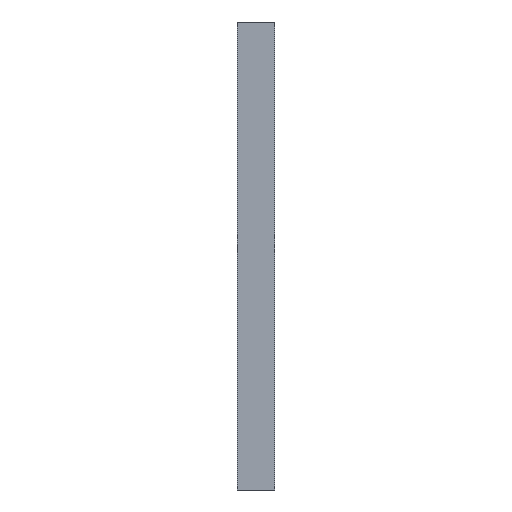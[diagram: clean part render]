
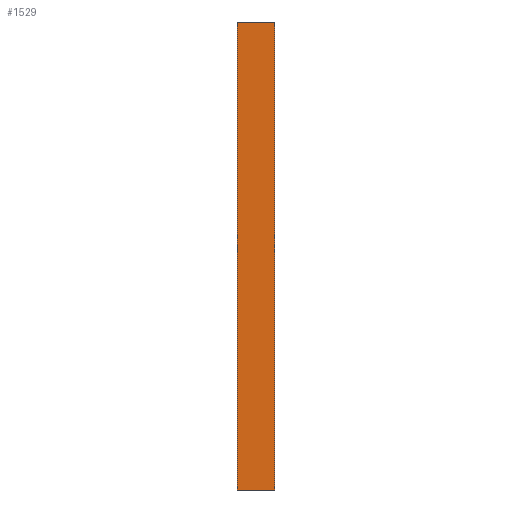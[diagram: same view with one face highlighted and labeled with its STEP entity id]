
A CAD part, left-side view. The second image highlights one B-rep face of the part: STEP entity #1529.
In plain terms, the highlighted planar face has unit normal (-1, 0, 0).
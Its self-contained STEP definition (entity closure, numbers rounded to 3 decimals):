
#141=PLANE('',#1744);
#209=FACE_OUTER_BOUND('',#277,.T.);
#277=EDGE_LOOP('',(#1263,#1264,#1265,#1266));
#473=LINE('',#2595,#547);
#474=LINE('',#2598,#548);
#475=LINE('',#2600,#549);
#476=LINE('',#2601,#550);
#547=VECTOR('',#2194,10.);
#548=VECTOR('',#2197,10.);
#549=VECTOR('',#2198,10.);
#550=VECTOR('',#2199,10.);
#805=VERTEX_POINT('',#2591);
#806=VERTEX_POINT('',#2593);
#807=VERTEX_POINT('',#2597);
#808=VERTEX_POINT('',#2599);
#1001=EDGE_CURVE('',#805,#806,#473,.T.);
#1002=EDGE_CURVE('',#807,#805,#474,.T.);
#1003=EDGE_CURVE('',#808,#806,#475,.T.);
#1004=EDGE_CURVE('',#807,#808,#476,.T.);
#1263=ORIENTED_EDGE('',*,*,#1002,.T.);
#1264=ORIENTED_EDGE('',*,*,#1001,.T.);
#1265=ORIENTED_EDGE('',*,*,#1003,.F.);
#1266=ORIENTED_EDGE('',*,*,#1004,.F.);
#1529=ADVANCED_FACE('',(#209),#141,.T.);
#1744=AXIS2_PLACEMENT_3D('',#2596,#2195,#2196);
#2194=DIRECTION('',(0.,1.,0.));
#2195=DIRECTION('center_axis',(-1.,0.,0.));
#2196=DIRECTION('ref_axis',(0.,0.,1.));
#2197=DIRECTION('',(0.,0.,1.));
#2198=DIRECTION('',(0.,0.,1.));
#2199=DIRECTION('',(0.,1.,0.));
#2591=CARTESIAN_POINT('',(-250.,0.,0.));
#2593=CARTESIAN_POINT('',(-250.,10.,0.));
#2595=CARTESIAN_POINT('',(-250.,0.,0.));
#2596=CARTESIAN_POINT('Origin',(-250.,0.,-125.));
#2597=CARTESIAN_POINT('',(-250.,0.,-125.));
#2598=CARTESIAN_POINT('',(-250.,0.,-125.));
#2599=CARTESIAN_POINT('',(-250.,10.,-125.));
#2600=CARTESIAN_POINT('',(-250.,10.,-125.));
#2601=CARTESIAN_POINT('',(-250.,0.,-125.));
